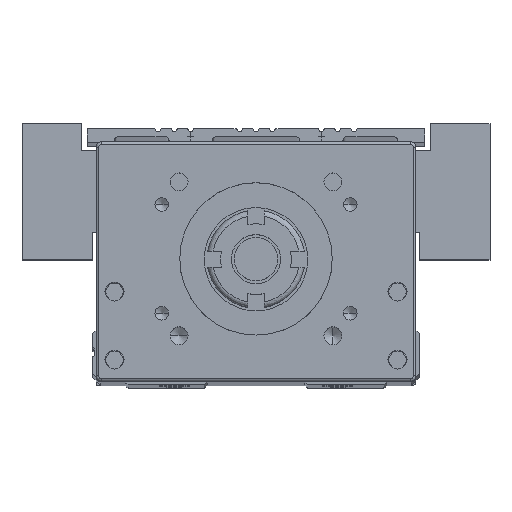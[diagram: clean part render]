
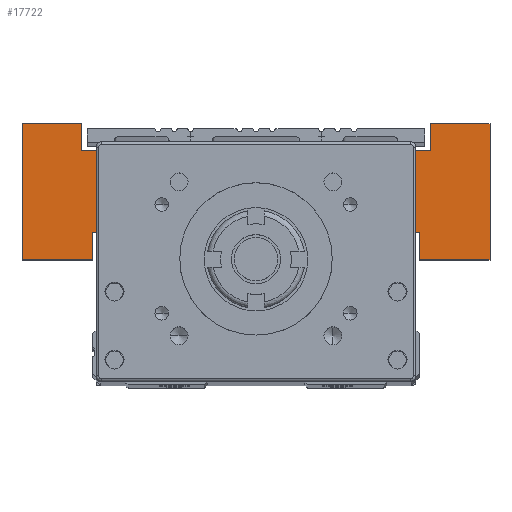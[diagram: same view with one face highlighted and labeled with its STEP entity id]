
A CAD part, top view. The second image highlights one B-rep face of the part: STEP entity #17722.
In plain terms, the highlighted planar face has unit normal (0, 0, 1).
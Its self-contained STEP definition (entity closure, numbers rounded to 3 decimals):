
#492 = VERTEX_POINT ( 'NONE', #2753 ) ;
#1357 = EDGE_CURVE ( 'NONE', #62634, #27785, #41690, .T. ) ;
#1537 = CARTESIAN_POINT ( 'NONE',  ( 0., 33., 130.7 ) ) ;
#1617 = DIRECTION ( 'NONE',  ( 1., 0., 0. ) ) ;
#2368 = CARTESIAN_POINT ( 'NONE',  ( 43., 33., 130.7 ) ) ;
#2753 = CARTESIAN_POINT ( 'NONE',  ( -21., 28., 130.7 ) ) ;
#4019 = EDGE_CURVE ( 'NONE', #16432, #10138, #16968, .T. ) ;
#4126 = VERTEX_POINT ( 'NONE', #48993 ) ;
#4138 = LINE ( 'NONE', #68316, #27930 ) ;
#4358 = VERTEX_POINT ( 'NONE', #67722 ) ;
#4696 = VECTOR ( 'NONE', #49763, 1000. ) ;
#4926 = CARTESIAN_POINT ( 'NONE',  ( 0., 23., 130.7 ) ) ;
#6192 = CARTESIAN_POINT ( 'NONE',  ( 0., 23., 130.7 ) ) ;
#6196 = DIRECTION ( 'NONE',  ( 1., 0., 0. ) ) ;
#6230 = CARTESIAN_POINT ( 'NONE',  ( 0., 48., 130.7 ) ) ;
#7071 = CARTESIAN_POINT ( 'NONE',  ( -43., 23., 130.7 ) ) ;
#8001 = CARTESIAN_POINT ( 'NONE',  ( -32., 43., 130.7 ) ) ;
#8534 = DIRECTION ( 'NONE',  ( -1., 0., 0. ) ) ;
#8847 = VECTOR ( 'NONE', #28002, 1000. ) ;
#10138 = VERTEX_POINT ( 'NONE', #28535 ) ;
#10320 = ORIENTED_EDGE ( 'NONE', *, *, #13510, .T. ) ;
#10401 = CARTESIAN_POINT ( 'NONE',  ( -32., 48., 130.7 ) ) ;
#10551 = FACE_OUTER_BOUND ( 'NONE', #39487, .T. ) ;
#11655 = LINE ( 'NONE', #6230, #8847 ) ;
#12520 = VERTEX_POINT ( 'NONE', #26561 ) ;
#12803 = VERTEX_POINT ( 'NONE', #41874 ) ;
#13510 = EDGE_CURVE ( 'NONE', #12520, #4358, #30107, .T. ) ;
#13769 = CARTESIAN_POINT ( 'NONE',  ( 0., 28., 130.7 ) ) ;
#13890 = ORIENTED_EDGE ( 'NONE', *, *, #31129, .T. ) ;
#14741 = AXIS2_PLACEMENT_3D ( 'NONE', #1537, #34021, #6196 ) ;
#14922 = LINE ( 'NONE', #42014, #32577 ) ;
#16294 = VECTOR ( 'NONE', #67251, 1000. ) ;
#16432 = VERTEX_POINT ( 'NONE', #7071 ) ;
#16968 = LINE ( 'NONE', #6192, #4696 ) ;
#17294 = ORIENTED_EDGE ( 'NONE', *, *, #20494, .T. ) ;
#17722 = ADVANCED_FACE ( 'NONE', ( #10551 ), #39411, .T. ) ;
#18255 = LINE ( 'NONE', #38617, #69448 ) ;
#18430 = LINE ( 'NONE', #55151, #62334 ) ;
#19440 = EDGE_CURVE ( 'NONE', #4358, #12803, #14922, .T. ) ;
#19825 = CARTESIAN_POINT ( 'NONE',  ( 32., 33., 130.7 ) ) ;
#20494 = EDGE_CURVE ( 'NONE', #4126, #62634, #62876, .T. ) ;
#20740 = LINE ( 'NONE', #10401, #67196 ) ;
#20878 = VERTEX_POINT ( 'NONE', #54325 ) ;
#21000 = CARTESIAN_POINT ( 'NONE',  ( -30., 28., 130.7 ) ) ;
#21195 = ORIENTED_EDGE ( 'NONE', *, *, #61001, .T. ) ;
#23036 = DIRECTION ( 'NONE',  ( 0., 1., 0. ) ) ;
#23242 = LINE ( 'NONE', #60270, #51591 ) ;
#23754 = DIRECTION ( 'NONE',  ( 1., 0., 0. ) ) ;
#24414 = EDGE_CURVE ( 'NONE', #12803, #20878, #58755, .T. ) ;
#26231 = VERTEX_POINT ( 'NONE', #62620 ) ;
#26450 = ORIENTED_EDGE ( 'NONE', *, *, #40621, .T. ) ;
#26561 = CARTESIAN_POINT ( 'NONE',  ( 21., 28., 130.7 ) ) ;
#27016 = ORIENTED_EDGE ( 'NONE', *, *, #44429, .T. ) ;
#27132 = ORIENTED_EDGE ( 'NONE', *, *, #29036, .T. ) ;
#27213 = VERTEX_POINT ( 'NONE', #28061 ) ;
#27785 = VERTEX_POINT ( 'NONE', #8001 ) ;
#27858 = VECTOR ( 'NONE', #8534, 1000. ) ;
#27930 = VECTOR ( 'NONE', #30883, 1000. ) ;
#28002 = DIRECTION ( 'NONE',  ( -1., 0., 0. ) ) ;
#28061 = CARTESIAN_POINT ( 'NONE',  ( -21., 33., 130.7 ) ) ;
#28251 = VECTOR ( 'NONE', #31896, 1000. ) ;
#28535 = CARTESIAN_POINT ( 'NONE',  ( -30., 23., 130.7 ) ) ;
#29036 = EDGE_CURVE ( 'NONE', #492, #27213, #44086, .T. ) ;
#29120 = LINE ( 'NONE', #2368, #16294 ) ;
#29773 = VERTEX_POINT ( 'NONE', #45961 ) ;
#30016 = VECTOR ( 'NONE', #44104, 1000. ) ;
#30107 = LINE ( 'NONE', #13769, #37326 ) ;
#30415 = CARTESIAN_POINT ( 'NONE',  ( 32., 43., 130.7 ) ) ;
#30883 = DIRECTION ( 'NONE',  ( 0., -1., 0. ) ) ;
#31129 = EDGE_CURVE ( 'NONE', #29773, #26231, #11655, .T. ) ;
#31896 = DIRECTION ( 'NONE',  ( 0., -1., 0. ) ) ;
#32345 = ORIENTED_EDGE ( 'NONE', *, *, #47221, .T. ) ;
#32577 = VECTOR ( 'NONE', #62943, 1000. ) ;
#34021 = DIRECTION ( 'NONE',  ( 0., 0., 1. ) ) ;
#34524 = EDGE_CURVE ( 'NONE', #52397, #12520, #23242, .T. ) ;
#34832 = VECTOR ( 'NONE', #23036, 1000. ) ;
#35123 = ORIENTED_EDGE ( 'NONE', *, *, #24414, .T. ) ;
#37326 = VECTOR ( 'NONE', #1617, 1000. ) ;
#38617 = CARTESIAN_POINT ( 'NONE',  ( 0., 28., 130.7 ) ) ;
#38620 = DIRECTION ( 'NONE',  ( 0., -1., 0. ) ) ;
#39411 = PLANE ( 'NONE',  #14741 ) ;
#39487 = EDGE_LOOP ( 'NONE', ( #41819, #35123, #26450, #27016, #17294, #50325, #21195, #13890, #64856, #48729, #48323, #58680, #27132, #32345, #41135, #10320 ) ) ;
#39813 = CARTESIAN_POINT ( 'NONE',  ( 0., 48., 130.7 ) ) ;
#40621 = EDGE_CURVE ( 'NONE', #20878, #42894, #29120, .T. ) ;
#41135 = ORIENTED_EDGE ( 'NONE', *, *, #34524, .T. ) ;
#41189 = CARTESIAN_POINT ( 'NONE',  ( 21., 33., 130.7 ) ) ;
#41690 = LINE ( 'NONE', #62266, #27858 ) ;
#41819 = ORIENTED_EDGE ( 'NONE', *, *, #19440, .T. ) ;
#41874 = CARTESIAN_POINT ( 'NONE',  ( 30., 23., 130.7 ) ) ;
#42014 = CARTESIAN_POINT ( 'NONE',  ( 30., 33., 130.7 ) ) ;
#42894 = VERTEX_POINT ( 'NONE', #51635 ) ;
#43131 = DIRECTION ( 'NONE',  ( 1., 0., 0. ) ) ;
#44086 = LINE ( 'NONE', #49808, #34832 ) ;
#44104 = DIRECTION ( 'NONE',  ( -1., 0., 0. ) ) ;
#44317 = DIRECTION ( 'NONE',  ( 1., 0., 0. ) ) ;
#44429 = EDGE_CURVE ( 'NONE', #42894, #4126, #45522, .T. ) ;
#44938 = EDGE_CURVE ( 'NONE', #26231, #16432, #4138, .T. ) ;
#45522 = LINE ( 'NONE', #39813, #30016 ) ;
#45961 = CARTESIAN_POINT ( 'NONE',  ( -32., 48., 130.7 ) ) ;
#46340 = LINE ( 'NONE', #57317, #49009 ) ;
#47221 = EDGE_CURVE ( 'NONE', #27213, #52397, #18430, .T. ) ;
#48018 = EDGE_CURVE ( 'NONE', #10138, #61889, #46340, .T. ) ;
#48323 = ORIENTED_EDGE ( 'NONE', *, *, #48018, .T. ) ;
#48569 = DIRECTION ( 'NONE',  ( 0., 1., 0. ) ) ;
#48729 = ORIENTED_EDGE ( 'NONE', *, *, #4019, .T. ) ;
#48993 = CARTESIAN_POINT ( 'NONE',  ( 32., 48., 130.7 ) ) ;
#49009 = VECTOR ( 'NONE', #52703, 1000. ) ;
#49763 = DIRECTION ( 'NONE',  ( 1., 0., 0. ) ) ;
#49808 = CARTESIAN_POINT ( 'NONE',  ( -21., 33., 130.7 ) ) ;
#49861 = EDGE_CURVE ( 'NONE', #61889, #492, #18255, .T. ) ;
#50325 = ORIENTED_EDGE ( 'NONE', *, *, #1357, .T. ) ;
#51591 = VECTOR ( 'NONE', #38620, 1000. ) ;
#51635 = CARTESIAN_POINT ( 'NONE',  ( 43., 48., 130.7 ) ) ;
#52397 = VERTEX_POINT ( 'NONE', #41189 ) ;
#52703 = DIRECTION ( 'NONE',  ( 0., 1., 0. ) ) ;
#54325 = CARTESIAN_POINT ( 'NONE',  ( 43., 23., 130.7 ) ) ;
#55151 = CARTESIAN_POINT ( 'NONE',  ( 0., 33., 130.7 ) ) ;
#57317 = CARTESIAN_POINT ( 'NONE',  ( -30., 33., 130.7 ) ) ;
#58680 = ORIENTED_EDGE ( 'NONE', *, *, #49861, .T. ) ;
#58755 = LINE ( 'NONE', #4926, #65095 ) ;
#60270 = CARTESIAN_POINT ( 'NONE',  ( 21., 33., 130.7 ) ) ;
#61001 = EDGE_CURVE ( 'NONE', #27785, #29773, #20740, .T. ) ;
#61889 = VERTEX_POINT ( 'NONE', #21000 ) ;
#62266 = CARTESIAN_POINT ( 'NONE',  ( -32., 43., 130.7 ) ) ;
#62334 = VECTOR ( 'NONE', #23754, 1000. ) ;
#62620 = CARTESIAN_POINT ( 'NONE',  ( -43., 48., 130.7 ) ) ;
#62634 = VERTEX_POINT ( 'NONE', #30415 ) ;
#62876 = LINE ( 'NONE', #19825, #28251 ) ;
#62943 = DIRECTION ( 'NONE',  ( 0., -1., 0. ) ) ;
#64856 = ORIENTED_EDGE ( 'NONE', *, *, #44938, .T. ) ;
#65095 = VECTOR ( 'NONE', #43131, 1000. ) ;
#67196 = VECTOR ( 'NONE', #48569, 1000. ) ;
#67251 = DIRECTION ( 'NONE',  ( 0., 1., 0. ) ) ;
#67722 = CARTESIAN_POINT ( 'NONE',  ( 30., 28., 130.7 ) ) ;
#68316 = CARTESIAN_POINT ( 'NONE',  ( -43., 33., 130.7 ) ) ;
#69448 = VECTOR ( 'NONE', #44317, 1000. ) ;
